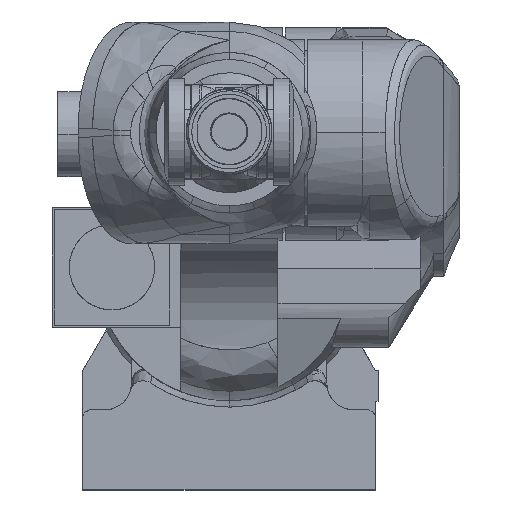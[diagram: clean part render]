
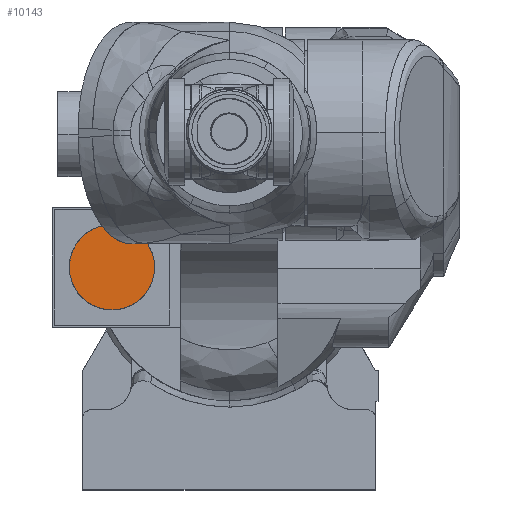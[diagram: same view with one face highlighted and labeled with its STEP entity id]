
A CAD part, top view. The second image highlights one B-rep face of the part: STEP entity #10143.
In plain terms, the highlighted planar face has unit normal (0, 0, 1).
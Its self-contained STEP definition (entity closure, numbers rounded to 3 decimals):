
#49 = CARTESIAN_POINT ( 'NONE',  ( -100.287, 36.169, 40. ) ) ;
#823 = CARTESIAN_POINT ( 'NONE',  ( -153.28, 43.14, 40. ) ) ;
#962 = DIRECTION ( 'NONE',  ( 1., 0., 0. ) ) ;
#1011 = CARTESIAN_POINT ( 'NONE',  ( -179.692, -6.274, 40. ) ) ;
#1213 = CARTESIAN_POINT ( 'NONE',  ( -138.273, -47.693, 40. ) ) ;
#4450 = CARTESIAN_POINT ( 'NONE',  ( -85.537, -12.455, 40. ) ) ;
#4634 = CARTESIAN_POINT ( 'NONE',  ( -107.953, 41.661, 40. ) ) ;
#5218 = CARTESIAN_POINT ( 'NONE',  ( -135.152, 48., 40. ) ) ;
#5417 = CARTESIAN_POINT ( 'NONE',  ( -161.288, 38.16, 40. ) ) ;
#5618 = CARTESIAN_POINT ( 'NONE',  ( -177.552, -15.457, 40. ) ) ;
#5825 = CARTESIAN_POINT ( 'NONE',  ( -132., -48., 40. ) ) ;
#8604 = VERTEX_POINT ( 'NONE', #11429 ) ;
#8880 = CARTESIAN_POINT ( 'NONE',  ( -119.545, -46.463, 40. ) ) ;
#9072 = CARTESIAN_POINT ( 'NONE',  ( -84., -3.151, 40. ) ) ;
#9246 = VERTEX_POINT ( 'NONE', #17935 ) ;
#9274 = CARTESIAN_POINT ( 'NONE',  ( -116.543, 45.552, 40. ) ) ;
#10057 = CARTESIAN_POINT ( 'NONE',  ( -168.169, 31.713, 40. ) ) ;
#10143 = ADVANCED_FACE ( 'NONE', ( #23854 ), #55573, .T. ) ;
#10247 = CARTESIAN_POINT ( 'NONE',  ( -173.661, -24.047, 40. ) ) ;
#11185 = EDGE_CURVE ( 'NONE', #8604, #9246, #14266, .T. ) ;
#11429 = CARTESIAN_POINT ( 'NONE',  ( -132., -48., 40. ) ) ;
#13473 = CARTESIAN_POINT ( 'NONE',  ( -110.72, -43.14, 40. ) ) ;
#13669 = CARTESIAN_POINT ( 'NONE',  ( -84.308, 6.274, 40. ) ) ;
#13858 = CARTESIAN_POINT ( 'NONE',  ( -125.727, 47.693, 40. ) ) ;
#14266 = B_SPLINE_CURVE_WITH_KNOTS ( 'NONE', 3,
 ( #49738, #22461, #36255, #8880, #40807, #13473, #45372, #18067, #49934, #22657, #54461, #27247, #58983, #31863, #4450, #36449, #9072, #41001, #13669, #45566, #18254, #50125, #22854, #54648, #27437, #49, #32057, #4634, #36638, #9274, #41184, #13858, #45757, #18453 ),
 .UNSPECIFIED., .F., .F.,
 ( 4, 2, 2, 2, 2, 2, 2, 2, 2, 2, 2, 2, 2, 2, 2, 2, 4 ),
 ( 0., 0.062, 0.125, 0.187, 0.25, 0.312, 0.375, 0.437, 0.5, 0.562, 0.625, 0.687, 0.75, 0.812, 0.875, 0.937, 1. ),
 .UNSPECIFIED. ) ;
#14625 = CARTESIAN_POINT ( 'NONE',  ( -173.661, 24.047, 40. ) ) ;
#14820 = CARTESIAN_POINT ( 'NONE',  ( -168.169, -31.713, 40. ) ) ;
#17935 = CARTESIAN_POINT ( 'NONE',  ( -132., 48., 40. ) ) ;
#18067 = CARTESIAN_POINT ( 'NONE',  ( -102.712, -38.16, 40. ) ) ;
#18254 = CARTESIAN_POINT ( 'NONE',  ( -86.448, 15.457, 40. ) ) ;
#18453 = CARTESIAN_POINT ( 'NONE',  ( -132., 48., 40. ) ) ;
#19245 = CARTESIAN_POINT ( 'NONE',  ( -177.552, 15.457, 40. ) ) ;
#19448 = CARTESIAN_POINT ( 'NONE',  ( -161.288, -38.16, 40. ) ) ;
#22461 = CARTESIAN_POINT ( 'NONE',  ( -128.848, -48., 40. ) ) ;
#22657 = CARTESIAN_POINT ( 'NONE',  ( -95.831, -31.713, 40. ) ) ;
#22854 = CARTESIAN_POINT ( 'NONE',  ( -90.339, 24.047, 40. ) ) ;
#23627 = CARTESIAN_POINT ( 'NONE',  ( -138.273, 47.692, 40. ) ) ;
#23823 = CARTESIAN_POINT ( 'NONE',  ( -179.693, 6.274, 40. ) ) ;
#23854 = FACE_OUTER_BOUND ( 'NONE', #43781, .T. ) ;
#24021 = CARTESIAN_POINT ( 'NONE',  ( -153.28, -43.14, 40. ) ) ;
#27247 = CARTESIAN_POINT ( 'NONE',  ( -90.339, -24.047, 40. ) ) ;
#27437 = CARTESIAN_POINT ( 'NONE',  ( -95.831, 31.713, 40. ) ) ;
#27689 = ORIENTED_EDGE ( 'NONE', *, *, #11185, .T. ) ;
#28216 = CARTESIAN_POINT ( 'NONE',  ( -147.457, 45.552, 40. ) ) ;
#28358 = DIRECTION ( 'NONE',  ( 0., 0., 1. ) ) ;
#28409 = CARTESIAN_POINT ( 'NONE',  ( -180., -3.151, 40. ) ) ;
#28624 = CARTESIAN_POINT ( 'NONE',  ( -144.455, -46.463, 40. ) ) ;
#31863 = CARTESIAN_POINT ( 'NONE',  ( -86.448, -15.457, 40. ) ) ;
#32057 = CARTESIAN_POINT ( 'NONE',  ( -102.712, 38.16, 40. ) ) ;
#32849 = CARTESIAN_POINT ( 'NONE',  ( -156.047, 41.661, 40. ) ) ;
#33044 = CARTESIAN_POINT ( 'NONE',  ( -178.463, -12.455, 40. ) ) ;
#33241 = CARTESIAN_POINT ( 'NONE',  ( -135.152, -48., 40. ) ) ;
#36255 = CARTESIAN_POINT ( 'NONE',  ( -125.727, -47.692, 40. ) ) ;
#36291 = B_SPLINE_CURVE_WITH_KNOTS ( 'NONE', 3,
 ( #46332, #5218, #23627, #55425, #28216, #823, #32849, #5417, #37409, #10057, #41951, #14625, #46530, #19245, #51083, #23823, #55621, #28409, #1011, #33044, #5618, #37603, #10247, #42144, #14820, #46728, #19448, #51274, #24021, #55819, #28624, #1213, #33241, #5825 ),
 .UNSPECIFIED., .F., .F.,
 ( 4, 2, 2, 2, 2, 2, 2, 2, 2, 2, 2, 2, 2, 2, 2, 2, 4 ),
 ( 0., 0.063, 0.125, 0.188, 0.25, 0.313, 0.375, 0.438, 0.5, 0.563, 0.625, 0.688, 0.75, 0.813, 0.875, 0.938, 1. ),
 .UNSPECIFIED. ) ;
#36449 = CARTESIAN_POINT ( 'NONE',  ( -84.307, -6.274, 40. ) ) ;
#36638 = CARTESIAN_POINT ( 'NONE',  ( -110.72, 43.14, 40. ) ) ;
#37409 = CARTESIAN_POINT ( 'NONE',  ( -163.713, 36.169, 40. ) ) ;
#37603 = CARTESIAN_POINT ( 'NONE',  ( -175.14, -21.28, 40. ) ) ;
#40807 = CARTESIAN_POINT ( 'NONE',  ( -116.543, -45.552, 40. ) ) ;
#41001 = CARTESIAN_POINT ( 'NONE',  ( -84., 3.151, 40. ) ) ;
#41184 = CARTESIAN_POINT ( 'NONE',  ( -119.545, 46.463, 40. ) ) ;
#41951 = CARTESIAN_POINT ( 'NONE',  ( -170.16, 29.288, 40. ) ) ;
#42144 = CARTESIAN_POINT ( 'NONE',  ( -170.16, -29.288, 40. ) ) ;
#43781 = EDGE_LOOP ( 'NONE', ( #46075, #27689 ) ) ;
#45372 = CARTESIAN_POINT ( 'NONE',  ( -107.953, -41.661, 40. ) ) ;
#45566 = CARTESIAN_POINT ( 'NONE',  ( -85.537, 12.455, 40. ) ) ;
#45757 = CARTESIAN_POINT ( 'NONE',  ( -128.848, 48., 40. ) ) ;
#46075 = ORIENTED_EDGE ( 'NONE', *, *, #48576, .T. ) ;
#46332 = CARTESIAN_POINT ( 'NONE',  ( -132., 48., 40. ) ) ;
#46530 = CARTESIAN_POINT ( 'NONE',  ( -175.14, 21.28, 40. ) ) ;
#46728 = CARTESIAN_POINT ( 'NONE',  ( -163.713, -36.169, 40. ) ) ;
#48576 = EDGE_CURVE ( 'NONE', #9246, #8604, #36291, .T. ) ;
#49738 = CARTESIAN_POINT ( 'NONE',  ( -132., -48., 40. ) ) ;
#49934 = CARTESIAN_POINT ( 'NONE',  ( -100.287, -36.169, 40. ) ) ;
#50125 = CARTESIAN_POINT ( 'NONE',  ( -88.86, 21.28, 40. ) ) ;
#51031 = CARTESIAN_POINT ( 'NONE',  ( -132., 0., 40. ) ) ;
#51083 = CARTESIAN_POINT ( 'NONE',  ( -178.463, 12.455, 40. ) ) ;
#51274 = CARTESIAN_POINT ( 'NONE',  ( -156.047, -41.661, 40. ) ) ;
#53839 = AXIS2_PLACEMENT_3D ( 'NONE', #51031, #28358, #962 ) ;
#54461 = CARTESIAN_POINT ( 'NONE',  ( -93.84, -29.288, 40. ) ) ;
#54648 = CARTESIAN_POINT ( 'NONE',  ( -93.84, 29.288, 40. ) ) ;
#55425 = CARTESIAN_POINT ( 'NONE',  ( -144.455, 46.463, 40. ) ) ;
#55573 = PLANE ( 'NONE',  #53839 ) ;
#55621 = CARTESIAN_POINT ( 'NONE',  ( -180., 3.151, 40. ) ) ;
#55819 = CARTESIAN_POINT ( 'NONE',  ( -147.457, -45.552, 40. ) ) ;
#58983 = CARTESIAN_POINT ( 'NONE',  ( -88.86, -21.28, 40. ) ) ;
